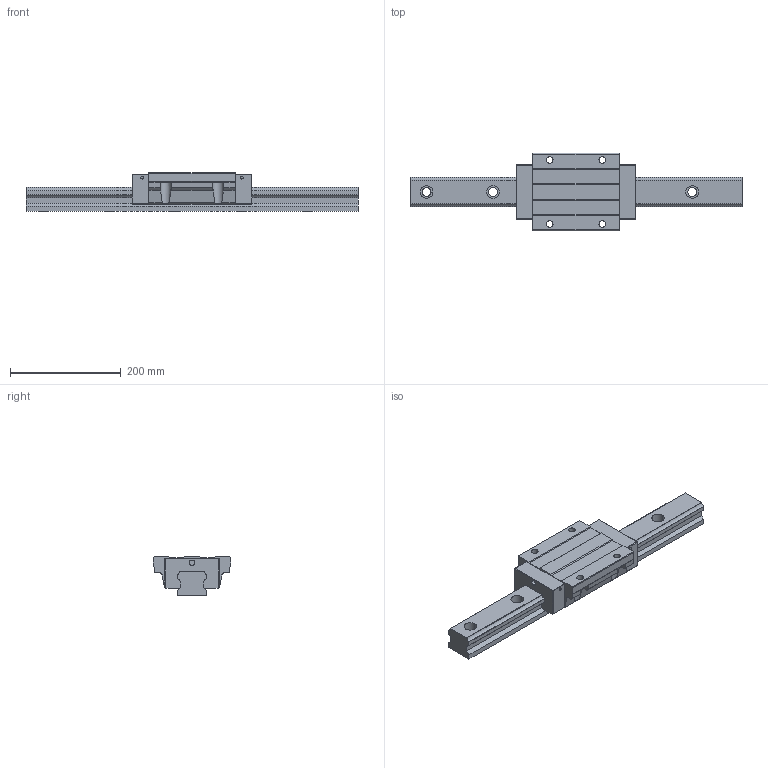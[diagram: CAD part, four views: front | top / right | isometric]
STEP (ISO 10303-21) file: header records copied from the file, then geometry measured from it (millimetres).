
FILE_DESCRIPTION (( 'STEP AP203' ), '1' );
FILE_NAME ('TRH55FE-SZ.STEP', '2024-06-26T06:48:27', ( '' ), ( '' ), 'SwSTEP 2.0', 'SolidWorks 2022', '' );
FILE_SCHEMA (( 'CONFIG_CONTROL_DESIGN' ));
Length unit declared in the file: millimetre
Products named in the file (1): TRH55FE-SZ
Bounding box: 600 x 140 x 70 mm (x, y, z)
Volume: 2159794 mm3; surface area: 245300.7 mm2
Topology: 2 solids, 2 shells, 219 faces, 596 edges, 388 vertices
Faces by surface type: plane 113, cylinder 102, sphere 4
Entity records: 7167 total; most frequent: CARTESIAN_POINT 1422, DIRECTION 1202, ORIENTED_EDGE 1184, EDGE_CURVE 592, AXIS2_PLACEMENT_3D 416, VERTEX_POINT 388, LINE 370, VECTOR 370
